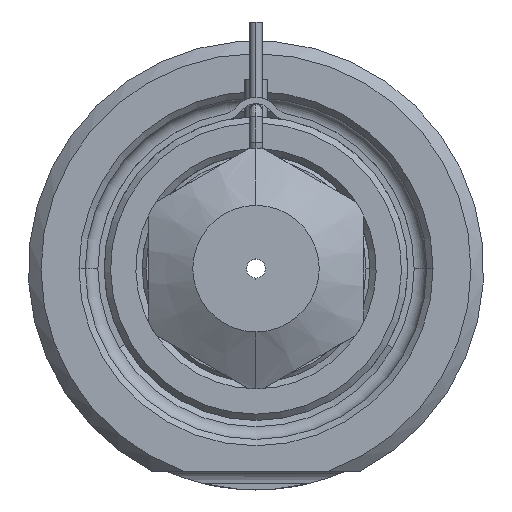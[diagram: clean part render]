
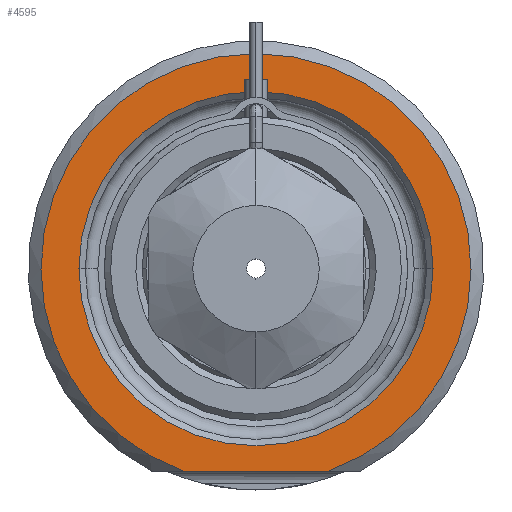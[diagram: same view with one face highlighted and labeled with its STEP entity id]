
A CAD part, front view. The second image highlights one B-rep face of the part: STEP entity #4595.
In plain terms, the highlighted planar face has unit normal (0, -1, 0).
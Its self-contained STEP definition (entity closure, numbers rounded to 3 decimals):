
#1354=DIRECTION('',(1.,0.,0.));
#1355=VECTOR('',#1354,11.489);
#1356=CARTESIAN_POINT('',(-5.745,0.,-16.));
#1357=LINE('',#1356,#1355);
#1358=CARTESIAN_POINT('',(0.,0.,0.));
#1359=DIRECTION('',(0.,1.,0.));
#1360=DIRECTION('',(-1.,0.,0.));
#1361=AXIS2_PLACEMENT_3D('',#1358,#1359,#1360);
#1363=CARTESIAN_POINT('',(0.,0.,0.));
#1364=DIRECTION('',(0.,1.,0.));
#1365=DIRECTION('',(1.,0.,0.));
#1366=AXIS2_PLACEMENT_3D('',#1363,#1364,#1365);
#1470=CARTESIAN_POINT('',(0.,0.,0.));
#1471=DIRECTION('',(0.,-1.,0.));
#1472=DIRECTION('',(0.338,0.,-0.941));
#1473=AXIS2_PLACEMENT_3D('',#1470,#1471,#1472);
#2523=CARTESIAN_POINT('',(-14.,0.,0.));
#2524=CARTESIAN_POINT('',(14.,0.,0.));
#2525=VERTEX_POINT('',#2523);
#2526=VERTEX_POINT('',#2524);
#2563=CARTESIAN_POINT('',(-5.745,0.,-16.));
#2564=CARTESIAN_POINT('',(5.745,0.,-16.));
#2565=VERTEX_POINT('',#2563);
#2566=VERTEX_POINT('',#2564);
#4579=CARTESIAN_POINT('',(0.,0.,0.));
#4580=DIRECTION('',(0.,-1.,0.));
#4581=DIRECTION('',(1.,0.,0.));
#4582=AXIS2_PLACEMENT_3D('',#4579,#4580,#4581);
#4583=PLANE('',#4582);
#4585=ORIENTED_EDGE('',*,*,#4584,.F.);
#4587=ORIENTED_EDGE('',*,*,#4586,.F.);
#4588=EDGE_LOOP('',(#4585,#4587));
#4589=FACE_OUTER_BOUND('',#4588,.F.);
#4591=ORIENTED_EDGE('',*,*,#4590,.F.);
#4592=ORIENTED_EDGE('',*,*,#4569,.F.);
#4593=EDGE_LOOP('',(#4591,#4592));
#4594=FACE_BOUND('',#4593,.F.);
#4595=ADVANCED_FACE('',(#4589,#4594),#4583,.T.);
#1362=CIRCLE('',#1361,14.);
#1367=CIRCLE('',#1366,14.);
#1474=CIRCLE('',#1473,17.);
#4569=EDGE_CURVE('',#2526,#2525,#1367,.T.);
#4584=EDGE_CURVE('',#2565,#2566,#1357,.T.);
#4586=EDGE_CURVE('',#2566,#2565,#1474,.T.);
#4590=EDGE_CURVE('',#2525,#2526,#1362,.T.);
